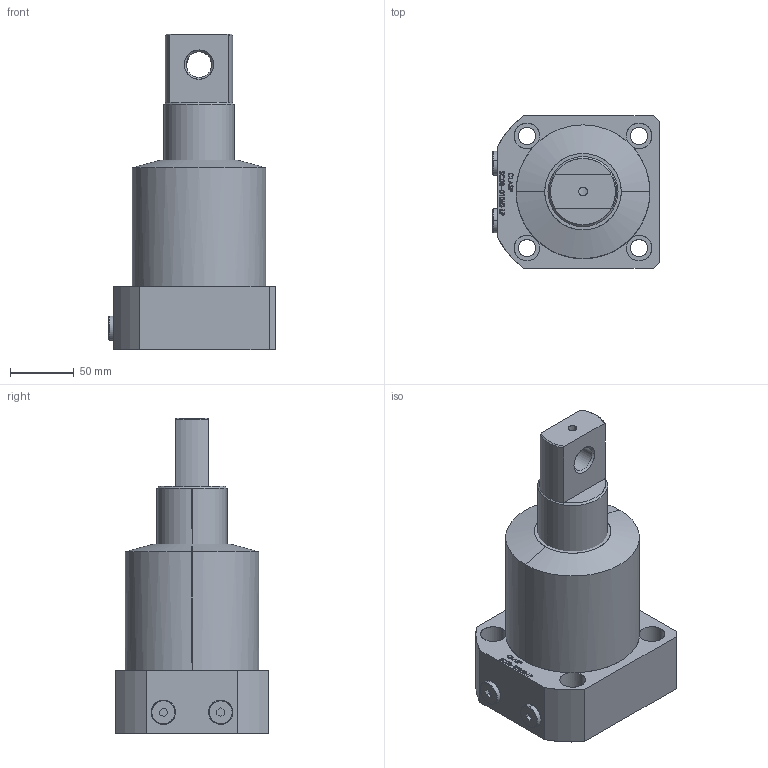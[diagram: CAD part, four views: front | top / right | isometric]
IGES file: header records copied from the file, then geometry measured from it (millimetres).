
Start section: SolidWorks IGES file using analytic representation for surfaces
Global section: file name: D:\karuppas\Clasp\3D model\SWING CYLINDER\Bottom Mounting swing cylinder-P type\SC08-01052-LP\SC08-01052-LP.IGS; native system: SolidWorks 2017; preprocessor: SolidWorks 2017; author: pc; date: 220708.224020; units: millimetre
Bounding box: 131 x 120 x 248 mm (x, y, z)
Surface area: 122890.7 mm2 (no closed solid volume)
Topology: 0 solids, 0 shells, 342 faces, 5390 edges, 5390 vertices
Faces by surface type: bspline 272, revolution 70
